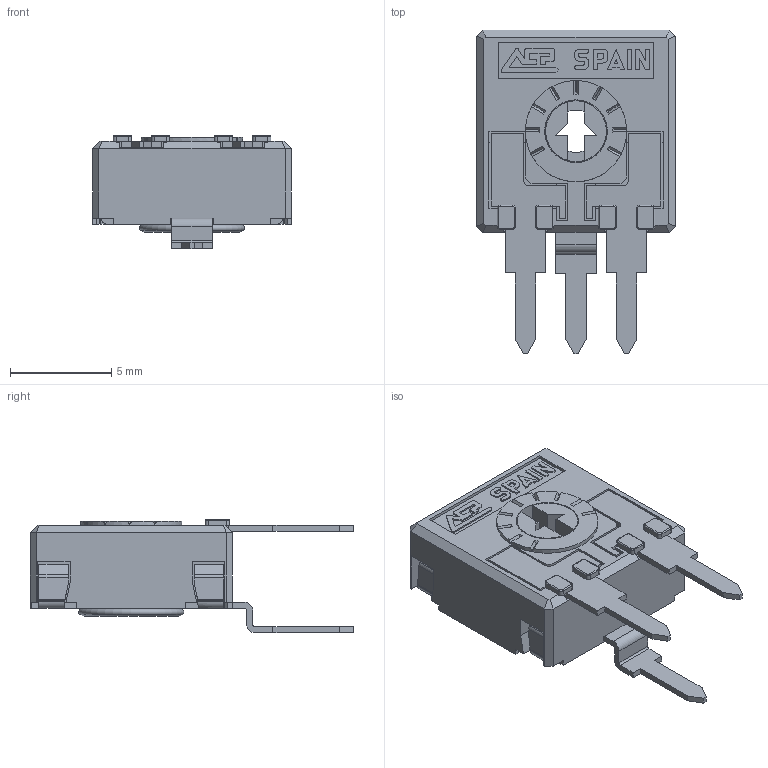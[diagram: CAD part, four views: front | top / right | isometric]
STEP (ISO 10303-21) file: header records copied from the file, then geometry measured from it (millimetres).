
FILE_DESCRIPTION(/* description */ (''),/* implementation_level */ '2;1');
FILE_NAME(/* name */ '\\SERVERACP\intercambio\Ignacio Santa Cecilia\Nueva WEB 2025\CA9 - CE9\CA9PH5.stp',/* time_stamp */ '2025-06-03T15:31:33+02:00',/* author */ ('CEM'),/* organization */ (''),/* preprocessor_version */ 'ST-DEVELOPER v17',/* originating_system */ 'Autodesk Inventor 2018',/* authorisation */ '');
FILE_SCHEMA (('AUTOMOTIVE_DESIGN { 1 0 10303 214 3 1 1 }'));
Length unit declared in the file: millimetre
Products named in the file (1): CA9PH5
Bounding box: 9.8 x 16 x 5.6 mm (x, y, z)
Volume: 245.8 mm3; surface area: 838.7 mm2
Topology: 2 solids, 2 shells, 604 faces, 1724 edges, 1105 vertices
Faces by surface type: plane 482, cylinder 87, torus 19, cone 16
Full cylindrical faces by diameter (mm): 3 x1, 3.1 x1, 4 x1, 4.8 x1, 5 x1
Entity records: 19682 total; most frequent: CARTESIAN_POINT 3486, ORIENTED_EDGE 3448, DIRECTION 3204, EDGE_CURVE 1724, LINE 1402, VECTOR 1402, VERTEX_POINT 1105, AXIS2_PLACEMENT_3D 901
